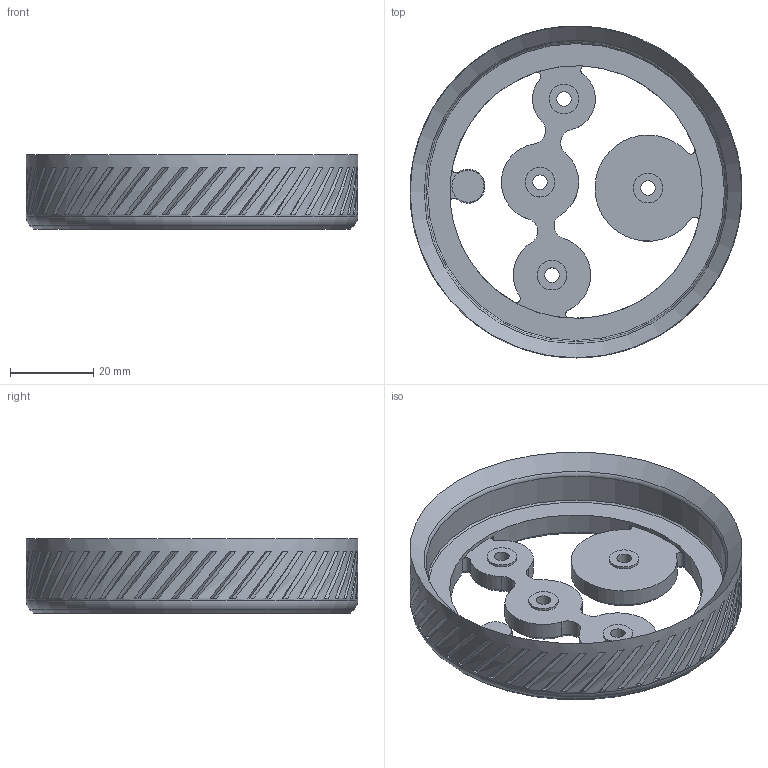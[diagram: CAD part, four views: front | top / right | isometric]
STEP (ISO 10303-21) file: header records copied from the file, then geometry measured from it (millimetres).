
FILE_DESCRIPTION(/* description */ ('STEP AP242','CAx-IF Rec.Pracs.---Representation and Presentation of Product Manufacturing Information (PMI)---4.0---2014-10-13','CAx-IF Rec.Pracs.---3D Tessellated Geometry---0.4---2014-09-14','2;1'),/* implementation_level */ '2;1');
FILE_NAME(/* name */ '64a64604375f73530642e732',/* time_stamp */ '2023-07-06T04:41:41Z',/* author */ (''),/* organization */ (''),/* preprocessor_version */ 'ST-DEVELOPER v19.4',/* originating_system */ ' ',/* authorisation */ ' ');
FILE_SCHEMA (('AP242_MANAGED_MODEL_BASED_3D_ENGINEERING_MIM_LF { 1 0 10303 442 1 1 4 }'));
Length unit declared in the file: metre
Products named in the file (1): Spin Ring V2
Bounding box: 79.6 x 79.6 x 17.8 mm (x, y, z)
Volume: 27021.1 mm3; surface area: 15936.5 mm2
Topology: 1 solids, 1 shells, 306 faces, 709 edges, 461 vertices
Faces by surface type: plane 121, bspline 108, cylinder 38, cone 33, torus 6
Full cylindrical faces by diameter (mm): 2.8 x1, 3.5 x4, 7.1 x8, 7.7 x1, 60.625 x1, 72 x1, 79.6 x1
Entity records: 10669 total; most frequent: CARTESIAN_POINT 5081, ORIENTED_EDGE 1316, DIRECTION 795, EDGE_CURVE 658, VERTEX_POINT 444, EDGE_LOOP 408, FACE_BOUND 408, B_SPLINE_CURVE_WITH_KNOTS 378
